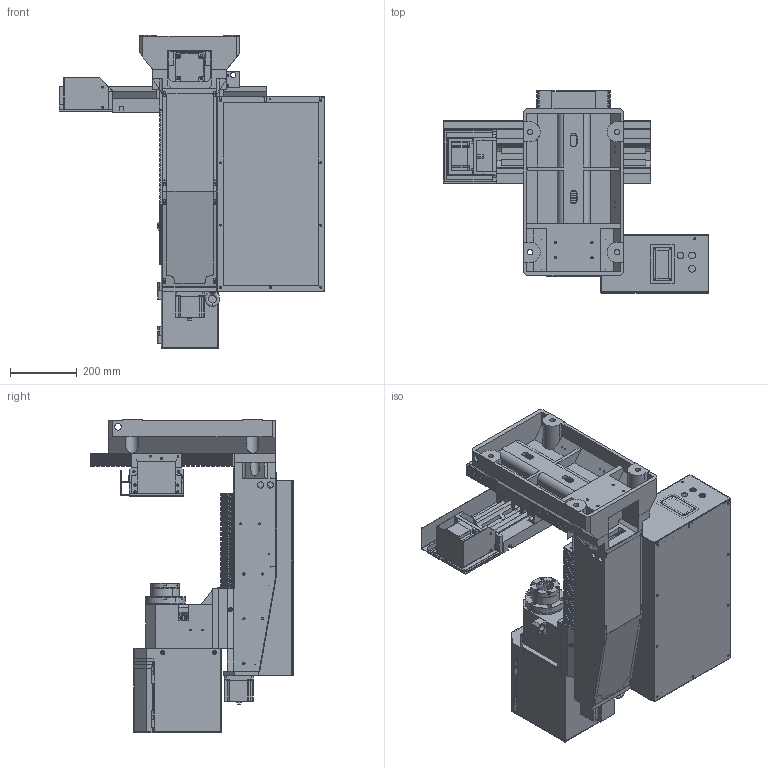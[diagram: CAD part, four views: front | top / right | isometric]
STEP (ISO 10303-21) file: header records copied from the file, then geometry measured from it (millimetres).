
FILE_DESCRIPTION (( 'STEP AP214' ), '1' );
FILE_NAME ('35466 PCNC 440.STEP', '2016-04-29T14:40:55', ( '' ), ( '' ), 'SwSTEP 2.0', 'SolidWorks 2014', '' );
FILE_SCHEMA (( 'AUTOMOTIVE_DESIGN' ));
Length unit declared in the file: millimetre
Products named in the file (42): 35466-06-002??___; 35466-XK440-01-010??___; 35466-06-001???___; 35466-XK440-01-013???___; 35466-PCNC 440 SPINDLE ASSY___; 35466-XK440-01-007X????___; 35466-XK440-03-002??___; 35466-XK440-01-006Y????___; 35466-XK440-03-001????___; 35466-KX440-01-005???___; 35466-PCNC 440 HEAD ASSY___; 35466-XK440-01-003AX????___; 35466-XK440-02-003?????___; 35466-PCNC 440 COOLANT BRKT___; 35466-XK440-01-002??___; 35466-XK440-02-001???___; 35466-PCNC 440 HEAD COVER DOOR___; 35466-XK440-01-001??___; 35466-PCNC 440 Z-AXIS ASSY___; 35466-PCNC 440 HEAD COVER___; 35466-06-004???????___; 35466-PCNC 440 X-AXIS MOTOR COVER___; 35466 PCNC 440; 35466-????M10-35___; 35466-PCNC 440 FRONT SWITCH COVER___; 35466-Z?????___; 35466-PCNC 440 Z-AXIS COVER___; 35466-XK440-04-003???___; 35466-PCNC 440 Y-Z COVER BRKT___; 35466-XK440-04-002Z????___; 35466-PCNC 440 REAR Y-AXIS WAYCOVER___; 35466-04-008??___; 35466-PCNC 440 FRONT Y-AXIS WAYCOVER___; 35466-04-001??___; 35466-PCNC 440 ELECTRICAL CABINET___; 35466-PCNC 440 X-Y AXIS ASSY___; 35466-06-006??___; 35466-XK440-01-018X???????___; 35466-06-007DB25???___; 35466-XK440-01-017Y??????___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
Assembly tree (44 placements, depth 3):
  35466 PCNC 440
    35466-PCNC 440 X-Y AXIS ASSY___
      35466-XK440-01-001??___
      35466-XK440-01-002??___
      35466-XK440-01-003AX????___
      35466-KX440-01-005???___
      35466-XK440-01-006Y????___
      35466-XK440-01-007X????___
      35466-XK440-01-013???___
      35466-XK440-01-010??___
      35466-X-Y?????___  x2
      35466-XK440-01-017Y??????___
      35466-XK440-01-018X???????___
    35466-PCNC 440 Z-AXIS ASSY___
      35466-04-001??___
      35466-04-008??___
      35466-XK440-04-002Z????___
      35466-XK440-04-003???___
      35466-Z?????___
      35466-????M10-35___
      35466-06-004???????___
    35466-PCNC 440 HEAD ASSY___
      35466-XK440-02-001???___
      35466-XK440-02-003?????___
    35466-PCNC 440 SPINDLE ASSY___
      35466-XK440-03-001????___
      35466-XK440-03-002??___
    35466-PCNC 440 ELECTRICAL CABINET___
      35466-06-001???___
      35466-06-002??___
      35466-06-003?????___
      35466-06-007DB25???___
      35466-06-006??___  x3
    35466-PCNC 440 FRONT Y-AXIS WAYCOVER___
    35466-PCNC 440 REAR Y-AXIS WAYCOVER___
    35466-PCNC 440 Y-Z COVER BRKT___
    35466-PCNC 440 Z-AXIS COVER___
    35466-PCNC 440 FRONT SWITCH COVER___
    35466-PCNC 440 X-AXIS MOTOR COVER___
    35466-PCNC 440 HEAD COVER___
    35466-PCNC 440 HEAD COVER DOOR___
    35466-PCNC 440 COOLANT BRKT___
Bounding box: 793.99 x 604 x 936 mm (x, y, z)
Volume: 22865231.6 mm3; surface area: 6574083.3 mm2
Topology: 39 solids, 39 shells, 4058 faces, 10664 edges, 6623 vertices
Faces by surface type: plane 2306, cylinder 1443, cone 262, bspline 27, torus 20
Entity records: 131330 total; most frequent: CARTESIAN_POINT 22534, DIRECTION 20575, ORIENTED_EDGE 20226, EDGE_CURVE 10113, LINE 7171, VECTOR 7171, AXIS2_PLACEMENT_3D 6702, VERTEX_POINT 6409
